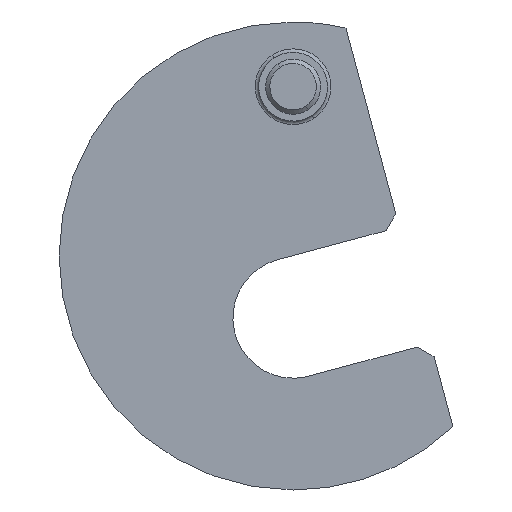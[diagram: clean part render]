
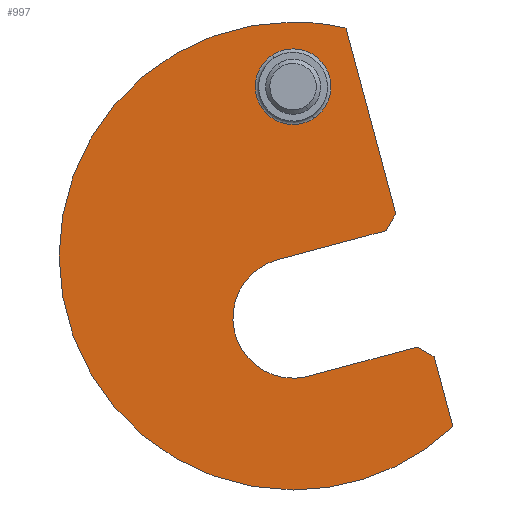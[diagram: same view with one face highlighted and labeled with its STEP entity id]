
A CAD part, front view. The second image highlights one B-rep face of the part: STEP entity #997.
In plain terms, the highlighted planar face has unit normal (0, -1, 0).
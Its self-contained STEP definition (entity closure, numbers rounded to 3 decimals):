
#7 = VERTEX_POINT ( 'NONE', #390 ) ;
#13 = VERTEX_POINT ( 'NONE', #383 ) ;
#14 = EDGE_CURVE ( 'NONE', #7, #13, #380, .T. ) ;
#23 = VERTEX_POINT ( 'NONE', #413 ) ;
#33 = EDGE_CURVE ( 'NONE', #23, #34, #420, .T. ) ;
#34 = VERTEX_POINT ( 'NONE', #421 ) ;
#255 = EDGE_CURVE ( 'NONE', #34, #301, #598, .T. ) ;
#256 = ORIENTED_EDGE ( 'NONE', *, *, #14, .F. ) ;
#257 = ORIENTED_EDGE ( 'NONE', *, *, #993, .F. ) ;
#258 = EDGE_CURVE ( 'NONE', #992, #264, #622, .T. ) ;
#259 = ORIENTED_EDGE ( 'NONE', *, *, #255, .F. ) ;
#262 = ORIENTED_EDGE ( 'NONE', *, *, #258, .T. ) ;
#263 = EDGE_CURVE ( 'NONE', #962, #903, #616, .T. ) ;
#264 = VERTEX_POINT ( 'NONE', #617 ) ;
#265 = ORIENTED_EDGE ( 'NONE', *, *, #274, .F. ) ;
#267 = ORIENTED_EDGE ( 'NONE', *, *, #33, .F. ) ;
#268 = ORIENTED_EDGE ( 'NONE', *, *, #272, .F. ) ;
#270 = EDGE_CURVE ( 'NONE', #13, #264, #613, .T. ) ;
#271 = ORIENTED_EDGE ( 'NONE', *, *, #908, .T. ) ;
#272 = EDGE_CURVE ( 'NONE', #999, #23, #609, .T. ) ;
#274 = EDGE_CURVE ( 'NONE', #275, #295, #608, .T. ) ;
#275 = VERTEX_POINT ( 'NONE', #604 ) ;
#276 = ORIENTED_EDGE ( 'NONE', *, *, #302, .F. ) ;
#277 = EDGE_LOOP ( 'NONE', ( #271, #285 ) ) ;
#278 = ORIENTED_EDGE ( 'NONE', *, *, #270, .F. ) ;
#285 = ORIENTED_EDGE ( 'NONE', *, *, #263, .T. ) ;
#293 = ORIENTED_EDGE ( 'NONE', *, *, #303, .T. ) ;
#295 = VERTEX_POINT ( 'NONE', #636 ) ;
#301 = VERTEX_POINT ( 'NONE', #658 ) ;
#302 = EDGE_CURVE ( 'NONE', #295, #966, #660, .T. ) ;
#303 = EDGE_CURVE ( 'NONE', #275, #301, #1284, .T. ) ;
#380 = CIRCLE ( 'NONE', #389, 34. ) ;
#382 = DIRECTION ( 'NONE',  ( 0., 1., 0. ) ) ;
#383 = CARTESIAN_POINT ( 'NONE',  ( 7.69, 0., 33.119 ) ) ;
#389 = AXIS2_PLACEMENT_3D ( 'NONE', #396, #382, #392 ) ;
#390 = CARTESIAN_POINT ( 'NONE',  ( 0., 0., 34. ) ) ;
#392 = DIRECTION ( 'NONE',  ( 0., 0., 1. ) ) ;
#396 = CARTESIAN_POINT ( 'NONE',  ( 0., 0., 0. ) ) ;
#413 = CARTESIAN_POINT ( 'NONE',  ( 0., 0., -17.75 ) ) ;
#414 = DIRECTION ( 'NONE',  ( 0., 0., 1. ) ) ;
#415 = DIRECTION ( 'NONE',  ( 0., -1., 0. ) ) ;
#416 = AXIS2_PLACEMENT_3D ( 'NONE', #418, #415, #414 ) ;
#418 = CARTESIAN_POINT ( 'NONE',  ( 0., 0., -9. ) ) ;
#420 = CIRCLE ( 'NONE', #416, 8.75 ) ;
#421 = CARTESIAN_POINT ( 'NONE',  ( 2.265, 0., -17.452 ) ) ;
#585 = DIRECTION ( 'NONE',  ( 0.966, 0., 0.259 ) ) ;
#586 = VECTOR ( 'NONE', #585, 1000. ) ;
#587 = DIRECTION ( 'NONE',  ( 0., 0., 1. ) ) ;
#588 = DIRECTION ( 'NONE',  ( 0., -1., 0. ) ) ;
#589 = CARTESIAN_POINT ( 'NONE',  ( 0., 0., -9. ) ) ;
#590 = AXIS2_PLACEMENT_3D ( 'NONE', #589, #588, #587 ) ;
#592 = DIRECTION ( 'NONE',  ( 0., 0., 1. ) ) ;
#597 = CARTESIAN_POINT ( 'NONE',  ( 2.265, 0., -17.452 ) ) ;
#598 = LINE ( 'NONE', #597, #586 ) ;
#604 = CARTESIAN_POINT ( 'NONE',  ( 20.487, 0., -14.64 ) ) ;
#605 = DIRECTION ( 'NONE',  ( 0.259, 0., -0.966 ) ) ;
#606 = VECTOR ( 'NONE', #605, 1000. ) ;
#607 = CARTESIAN_POINT ( 'NONE',  ( 19.969, 0., -12.708 ) ) ;
#608 = LINE ( 'NONE', #607, #606 ) ;
#609 = CIRCLE ( 'NONE', #590, 8.75 ) ;
#610 = DIRECTION ( 'NONE',  ( 0.259, 0., -0.966 ) ) ;
#611 = VECTOR ( 'NONE', #610, 1000. ) ;
#612 = CARTESIAN_POINT ( 'NONE',  ( 7.69, 0., 33.119 ) ) ;
#613 = LINE ( 'NONE', #612, #611 ) ;
#614 = DIRECTION ( 'NONE',  ( 0., 1., 0. ) ) ;
#615 = AXIS2_PLACEMENT_3D ( 'NONE', #627, #614, #592 ) ;
#616 = CIRCLE ( 'NONE', #615, 5.5 ) ;
#617 = CARTESIAN_POINT ( 'NONE',  ( 14.923, 0., 6.128 ) ) ;
#619 = DIRECTION ( 'NONE',  ( 0.5, 0., 0.866 ) ) ;
#620 = VECTOR ( 'NONE', #619, 1000. ) ;
#621 = CARTESIAN_POINT ( 'NONE',  ( 13.508, 0., 3.678 ) ) ;
#622 = LINE ( 'NONE', #621, #620 ) ;
#627 = CARTESIAN_POINT ( 'NONE',  ( 0., 0., 24.6 ) ) ;
#636 = CARTESIAN_POINT ( 'NONE',  ( 23.219, 0., -24.837 ) ) ;
#655 = DIRECTION ( 'NONE',  ( 0., 1., 0. ) ) ;
#656 = CARTESIAN_POINT ( 'NONE',  ( 0., 0., 0. ) ) ;
#657 = DIRECTION ( 'NONE',  ( 0., 0., 1. ) ) ;
#658 = CARTESIAN_POINT ( 'NONE',  ( 18.038, 0., -13.225 ) ) ;
#659 = AXIS2_PLACEMENT_3D ( 'NONE', #656, #655, #657 ) ;
#660 = CIRCLE ( 'NONE', #659, 34. ) ;
#661 = DIRECTION ( 'NONE',  ( 0., 0., 1. ) ) ;
#766 = CARTESIAN_POINT ( 'NONE',  ( 0., 0., 19.1 ) ) ;
#777 = DIRECTION ( 'NONE',  ( 0., 1., 0. ) ) ;
#778 = CARTESIAN_POINT ( 'NONE',  ( 0., 0., 24.6 ) ) ;
#779 = AXIS2_PLACEMENT_3D ( 'NONE', #778, #777, #661 ) ;
#780 = CIRCLE ( 'NONE', #779, 5.5 ) ;
#797 = DIRECTION ( 'NONE',  ( -0.966, 0., -0.259 ) ) ;
#803 = CARTESIAN_POINT ( 'NONE',  ( 0., 0., -34. ) ) ;
#805 = LINE ( 'NONE', #811, #810 ) ;
#807 = CARTESIAN_POINT ( 'NONE',  ( 0., 0., 30.1 ) ) ;
#810 = VECTOR ( 'NONE', #797, 1000. ) ;
#811 = CARTESIAN_POINT ( 'NONE',  ( -2.265, 0., -0.548 ) ) ;
#903 = VERTEX_POINT ( 'NONE', #766 ) ;
#908 = EDGE_CURVE ( 'NONE', #903, #962, #780, .T. ) ;
#962 = VERTEX_POINT ( 'NONE', #807 ) ;
#966 = VERTEX_POINT ( 'NONE', #803 ) ;
#969 = EDGE_CURVE ( 'NONE', #992, #999, #805, .T. ) ;
#992 = VERTEX_POINT ( 'NONE', #1086 ) ;
#993 = EDGE_CURVE ( 'NONE', #966, #7, #1090, .T. ) ;
#996 = EDGE_LOOP ( 'NONE', ( #998, #262, #278, #256, #257, #276, #265, #293, #259, #267, #268 ) ) ;
#997 = ADVANCED_FACE ( 'NONE', ( #1087, #1083 ), #1091, .F. ) ;
#998 = ORIENTED_EDGE ( 'NONE', *, *, #969, .F. ) ;
#999 = VERTEX_POINT ( 'NONE', #1092 ) ;
#1081 = AXIS2_PLACEMENT_3D ( 'NONE', #1098, #1097, #1096 ) ;
#1083 = FACE_BOUND ( 'NONE', #277, .T. ) ;
#1084 = DIRECTION ( 'NONE',  ( 0., 0., 1. ) ) ;
#1085 = DIRECTION ( 'NONE',  ( 0., 1., 0. ) ) ;
#1086 = CARTESIAN_POINT ( 'NONE',  ( 13.508, 0., 3.678 ) ) ;
#1087 = FACE_OUTER_BOUND ( 'NONE', #996, .T. ) ;
#1089 = CARTESIAN_POINT ( 'NONE',  ( 0., 0., 0. ) ) ;
#1090 = CIRCLE ( 'NONE', #1093, 34. ) ;
#1091 = PLANE ( 'NONE',  #1081 ) ;
#1092 = CARTESIAN_POINT ( 'NONE',  ( -2.265, 0., -0.548 ) ) ;
#1093 = AXIS2_PLACEMENT_3D ( 'NONE', #1089, #1085, #1084 ) ;
#1096 = DIRECTION ( 'NONE',  ( 0., 0., 1. ) ) ;
#1097 = DIRECTION ( 'NONE',  ( 0., 1., 0. ) ) ;
#1098 = CARTESIAN_POINT ( 'NONE',  ( 0., 0., 0. ) ) ;
#1281 = DIRECTION ( 'NONE',  ( -0.866, 0., 0.5 ) ) ;
#1282 = VECTOR ( 'NONE', #1281, 1000. ) ;
#1283 = CARTESIAN_POINT ( 'NONE',  ( 20.487, 0., -14.64 ) ) ;
#1284 = LINE ( 'NONE', #1283, #1282 ) ;
